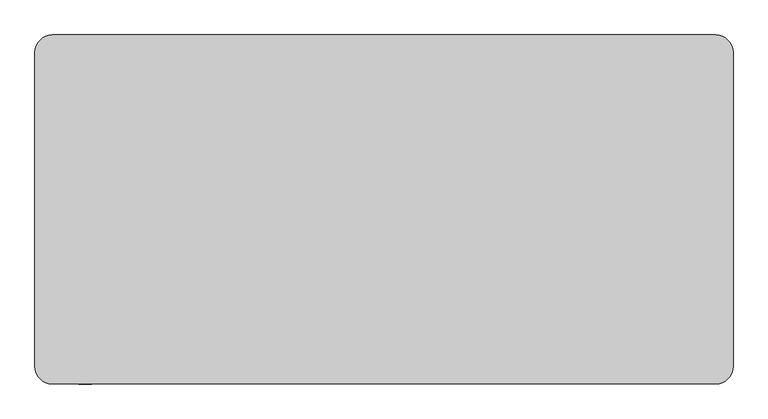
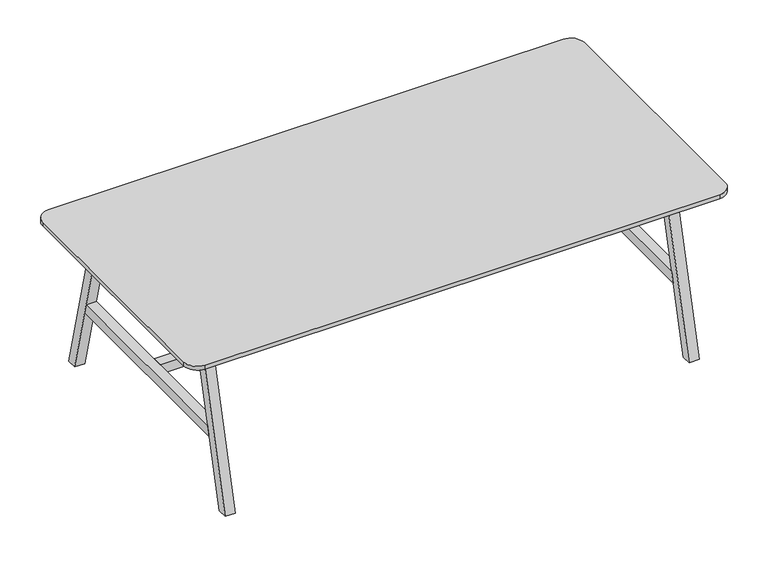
"""IFC4 building model written with IfcOpenShell, lengths in millimetres: furniture geometry, BDG_BossDesign_Tbls_AgentTables4Legs : AGE-DT-2400-1200-3D."""

from ifc_helpers import new_model, si_unit, point, frame, frame_2d, origin, place, context, project, spatial, polyline, circle_curve, trimmed, segment, composite_curve, outline, extrude, source, transform, mapped, element, save


def furniture_51e321d0(model_context):
    return source(origin(), model_context, "Body", "SweptSolid", [
        extrude(outline(polyline([(-466.3977249, 345.0), (466.3977249, 345.0), (477.9545427, 300.0), (-477.9545427, 300.0), (-466.3977249, 345.0)])), frame((1005.0, 0.0, 0.0), z_axis=(1.0, 0.0, 0.0), x_axis=(0.0, 1.0, 0.0)), (0.0, 0.0, 1.0), 45.0),
        extrude(outline(polyline([(600.0, 0.0), (554.9999949, 0.0), (385.5, 660.0), (430.5000051, 660.0), (600.0, 0.0)])), frame((-1050.0, 0.0, 0.0), z_axis=(1.0, 0.0, 0.0), x_axis=(0.0, 1.0, 0.0)), (0.0, 0.0, 1.0), 45.0),
        extrude(outline(polyline([(-600.0, 0.0), (-430.5000051, 660.0), (-385.5, 660.0), (-554.9999949, 0.0), (-600.0, 0.0)])), frame((-1050.0, 0.0, 0.0), z_axis=(1.0, 0.0, 0.0), x_axis=(0.0, 1.0, 0.0)), (0.0, 0.0, 1.0), 45.0),
        extrude(outline(polyline([(-379.5, 722.0), (379.5, 722.0), (397.9691272, 650.0), (-397.9691272, 650.0), (-379.5, 722.0)])), frame((588.0, 0.0, 0.0), z_axis=(1.0, 0.0, 0.0), x_axis=(0.0, 1.0, 0.0)), (0.0, 0.0, 1.0), 24.0),
        extrude(outline(polyline([(-466.3977249, 345.0), (466.3977249, 345.0), (477.9545427, 300.0), (-477.9545427, 300.0), (-466.3977249, 345.0)])), frame((-1050.0, 0.0, 0.0), z_axis=(1.0, 0.0, 0.0), x_axis=(0.0, 1.0, 0.0)), (0.0, 0.0, 1.0), 45.0),
        extrude(outline(polyline([(-379.5, 722.0), (379.5, 722.0), (397.9691272, 650.0), (-397.9691272, 650.0), (-379.5, 722.0)])), frame((-612.0, 0.0, 0.0), z_axis=(1.0, 0.0, 0.0), x_axis=(0.0, 1.0, 0.0)), (0.0, 0.0, 1.0), 24.0),
        extrude(outline(polyline([(-426.6006165, 634.973938), (-404.2770691, 722.0), (-379.5, 722.0), (-401.8235474, 634.973938), (-426.6006165, 634.973938)])), frame((-1005.0, 0.0, 0.0), z_axis=(1.0, 0.0, 0.0), x_axis=(0.0, 1.0, 0.0)), (0.0, 0.0, 1.0), 2010.0),
        extrude(outline(polyline([(426.6006165, 634.973938), (401.8235474, 634.973938), (379.5, 722.0), (404.2770691, 722.0), (426.6006165, 634.973938)])), frame((-1005.0, 0.0, 0.0), z_axis=(1.0, 0.0, 0.0), x_axis=(0.0, 1.0, 0.0)), (0.0, 0.0, 1.0), 2010.0),
        extrude(outline(polyline([(599.7999878, 0.0), (554.7999827, 0.0), (385.5, 660.0), (430.5000051, 660.0), (599.7999878, 0.0)])), frame((1005.0, 0.0, 0.0), z_axis=(1.0, 0.0, 0.0), x_axis=(0.0, 1.0, 0.0)), (0.0, 0.0, 1.0), 45.0),
        extrude(outline(polyline([(-599.7999878, 0.0), (-430.5000051, 660.0), (-385.5, 660.0), (-554.7999827, 0.0), (-599.7999878, 0.0)])), frame((1005.0, 0.0, 0.0), z_axis=(1.0, 0.0, 0.0), x_axis=(0.0, 1.0, 0.0)), (0.0, 0.0, 1.0), 45.0),
        extrude(outline(polyline([(1005.0, 22.5000305), (1005.0, -22.5000305), (-1005.0, -22.5000305), (-1005.0, 22.5000305), (1005.0, 22.5000305)])), frame((0.0, 0.0, 300.0), z_axis=(0.0, 0.0, 1.0), x_axis=(1.0, 0.0, 0.0)), (0.0, 0.0, 1.0), 45.0),
        extrude(outline(composite_curve([segment(trimmed(circle_curve(frame_2d((1140.0, 540.0)), 60.0), [point((1140.0, 600.0))], [point((1200.0, 540.0))], False, "CARTESIAN"), True, "CONTINUOUS"), segment(polyline([(1200.0, 540.0), (1200.0, -540.0)]), True, "CONTINUOUS"), segment(trimmed(circle_curve(frame_2d((1140.0, -540.0)), 60.0), [point((1200.0, -540.0))], [point((1140.0, -600.0))], False, "CARTESIAN"), True, "CONTINUOUS"), segment(polyline([(1140.0, -600.0), (-1140.0, -600.0)]), True, "CONTINUOUS"), segment(trimmed(circle_curve(frame_2d((-1140.0, -540.0)), 60.0), [point((-1140.0, -600.0))], [point((-1200.0, -540.0))], False, "CARTESIAN"), True, "CONTINUOUS"), segment(polyline([(-1200.0, -540.0), (-1200.0, 540.0)]), True, "CONTINUOUS"), segment(trimmed(circle_curve(frame_2d((-1140.0, 540.0)), 60.0), [point((-1200.0, 540.0))], [point((-1140.0, 600.0))], False, "CARTESIAN"), True, "CONTINUOUS"), segment(polyline([(-1140.0, 600.0), (1140.0, 600.0)]), True, "CONTINUOUS")], self_intersect=False)), frame((0.0, 0.0, 722.0), z_axis=(0.0, 0.0, 1.0), x_axis=(1.0, 0.0, 0.0)), (0.0, 0.0, 1.0), 18.0),
    ])


if __name__ == "__main__":
    model = new_model("IFC4")
    model_context = context("Model", 3, world=origin())
    ifc_project = project(units=[si_unit("LENGTHUNIT", "METRE", prefix="MILLI")], contexts=[model_context])
    site = spatial("IfcSite", under=ifc_project)
    building = spatial("IfcBuilding", under=site)
    placement = place(None, origin())
    furniture_shape = furniture_51e321d0(model_context)
    element("IfcFurniture", 1, ObjectType="BDG_BossDesign_Tbls_AgentTables4Legs : AGE-DT-2400-1200-3D", at=placement, inside=building, context=model_context, shape_type="MappedRepresentation", body=[
        mapped(furniture_shape, transform((0.0, 0.0, 0.0), x_axis=(1.0, 0.0, 0.0), y_axis=(0.0, 1.0, 0.0), z_axis=(0.0, 0.0, 1.0))),
    ])
    save(model, "model.ifc")
